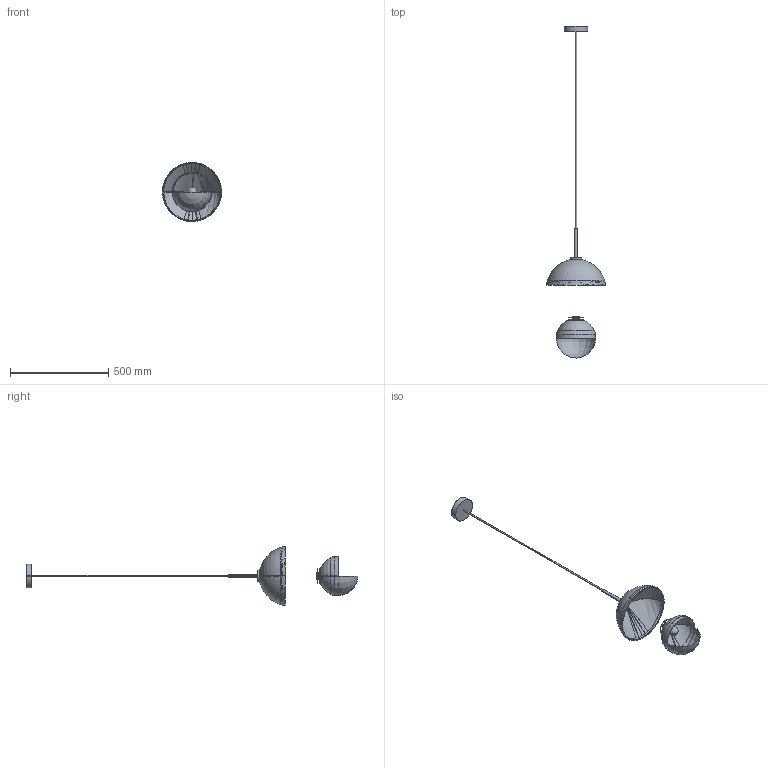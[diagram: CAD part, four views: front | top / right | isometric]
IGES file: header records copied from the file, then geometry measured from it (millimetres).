
Start section: SolidWorks IGES file using analytic representation for surfaces
Global section: file name: C:\Users\adrian\Desktop\MODELADOS USA\ULON\ULON_CU1236.IGS; native system: SolidWorks 2023; preprocessor: SolidWorks 2023; author: adrian; date: 260608.170320; units: inch
Bounding box: 301.86 x 1690.58 x 301.86 mm (x, y, z)
Surface area: 846086.4 mm2 (no closed solid volume)
Topology: 0 solids, 0 shells, 92 faces, 2011 edges, 2009 vertices
Faces by surface type: revolution 64, bspline 28
